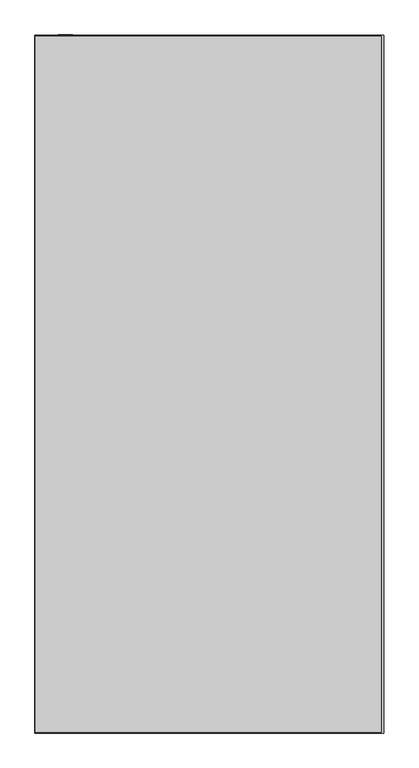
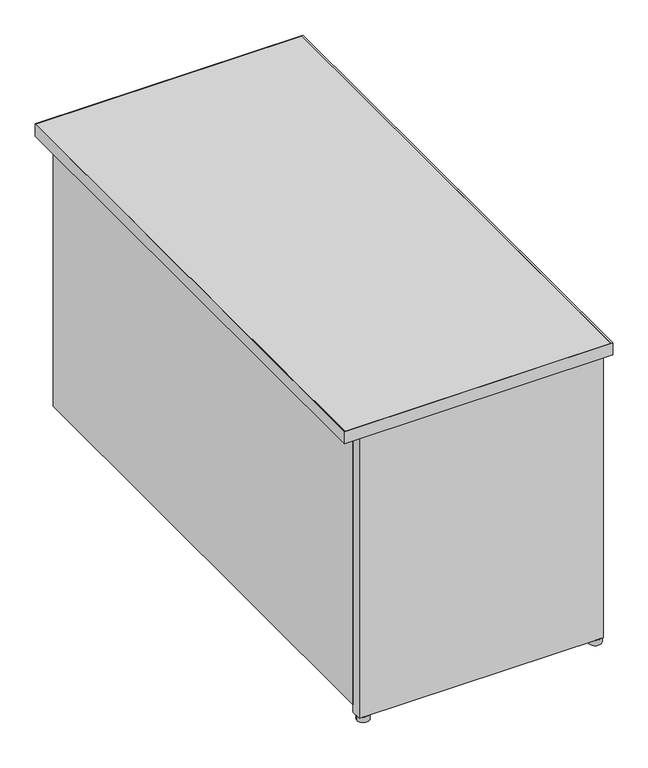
"""IFC4 building model written with IfcOpenShell, lengths in millimetres: furniture geometry, Steelcase - Kick Freestanding - Desk - Return - Full Height Modesty Panel : 24D x 48W - Left."""

from ifc_helpers import new_model, si_unit, point, frame, frame_2d, origin, origin_with_axes, place, context, project, spatial, polyline, circle_curve, trimmed, segment, composite_curve, outline, extrude, source, transform, mapped, element, save


def furniture_39954859(model_context):
    return source(origin(), model_context, "Body", "SweptSolid", [
        extrude(outline(composite_curve([segment(trimmed(circle_curve(frame_2d((2220.2474425, -1740.6145152)), 13.97), [point((2206.2774425, -1740.6145152))], [point((2234.2174425, -1740.6145152))], False, "CARTESIAN"), True, "CONTINUOUS"), segment(trimmed(circle_curve(frame_2d((2220.2474425, -1740.6145152)), 13.97), [point((2234.2174425, -1740.6145152))], [point((2206.2774425, -1740.6145152))], False, "CARTESIAN"), True, "CONTINUOUS")], self_intersect=False)), origin_with_axes(), (0.0, 0.0, 1.0), 12.7),
        extrude(outline(composite_curve([segment(trimmed(circle_curve(frame_2d((2748.0594425, -1740.6145152)), 13.97), [point((2734.0894425, -1740.6145152))], [point((2762.0294425, -1740.6145152))], False, "CARTESIAN"), True, "CONTINUOUS"), segment(trimmed(circle_curve(frame_2d((2748.0594425, -1740.6145152)), 13.97), [point((2762.0294425, -1740.6145152))], [point((2734.0894425, -1740.6145152))], False, "CARTESIAN"), True, "CONTINUOUS")], self_intersect=False)), origin_with_axes(), (0.0, 0.0, 1.0), 12.7),
        extrude(outline(polyline([(2205.0074425, -1728.0669152), (2328.2736437, -1728.0669152), (2328.2736437, -1750.4951136), (2427.9940467, -1750.4951136), (2427.9940467, -1728.0669041), (2536.7314502, -1728.0669041), (2536.7314502, -1750.4951136), (2636.4518532, -1750.4951136), (2636.4518532, -1728.0669041), (2759.4894376, -1728.0669041), (2759.4894376, -1752.5525098), (2205.0074425, -1752.5525098), (2205.0074425, -1728.0669152)])), frame((0.0, 0.0, 12.7), z_axis=(0.0, 0.0, 1.0), x_axis=(1.0, 0.0, 0.0)), (0.0, 0.0, 1.0), 682.244),
        extrude(outline(polyline([(2230.4074426, -546.0525152), (2230.4074426, -1728.0669152), (2205.0074425, -1728.0669152), (2205.0074425, -546.0525152), (2230.4074426, -546.0525152)])), frame((0.0, 0.0, 31.242), z_axis=(0.0, 0.0, 1.0), x_axis=(1.0, 0.0, 0.0)), (0.0, 0.0, 1.0), 663.702),
        extrude(outline(polyline([(2769.2176592, -548.0845152), (2769.2176592, -1764.7445152), (2164.8500425, -1764.7445152), (2164.8500425, -548.0845152), (2769.2176592, -548.0845152)])), frame((0.0, 0.0, 694.944), z_axis=(0.0, 0.0, 1.0), x_axis=(1.0, 0.0, 0.0)), (0.0, 0.0, 1.0), 28.956),
        extrude(outline(polyline([(2773.4594425, -546.8145152), (2773.4594425, -1766.0145152), (2163.8594425, -1766.0145152), (2163.8594425, -546.8145152), (2773.4594425, -546.8145152)]), holes=[polyline([(2769.2176592, -548.0845152), (2164.8500425, -548.0845152), (2164.8500425, -1764.7445152), (2769.2176592, -1764.7445152), (2769.2176592, -548.0845152)])]), frame((0.0, 0.0, 694.944), z_axis=(0.0, 0.0, 1.0), x_axis=(1.0, 0.0, 0.0)), (0.0, 0.0, 1.0), 28.956),
    ])


if __name__ == "__main__":
    model = new_model("IFC4")
    model_context = context("Model", 3, world=origin())
    ifc_project = project(units=[si_unit("LENGTHUNIT", "METRE", prefix="MILLI")], contexts=[model_context])
    site = spatial("IfcSite", under=ifc_project)
    building = spatial("IfcBuilding", under=site)
    placement = place(None, origin())
    furniture_shape = furniture_39954859(model_context)
    element("IfcFurniture", 1, ObjectType="Steelcase - Kick Freestanding - Desk - Return - Full Height Modesty Panel : 24D x 48W - Left", at=placement, inside=building, context=model_context, shape_type="MappedRepresentation", body=[
        mapped(furniture_shape, transform((0.0, 0.0, 0.0), x_axis=(1.0, 0.0, 0.0), y_axis=(0.0, 1.0, 0.0), z_axis=(0.0, 0.0, 1.0))),
    ])
    save(model, "model.ifc")
